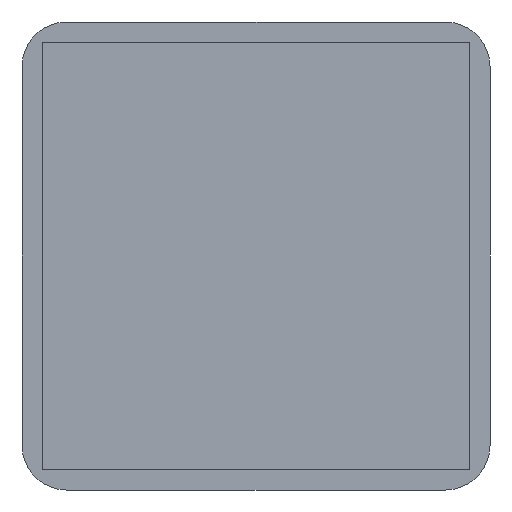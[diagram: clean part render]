
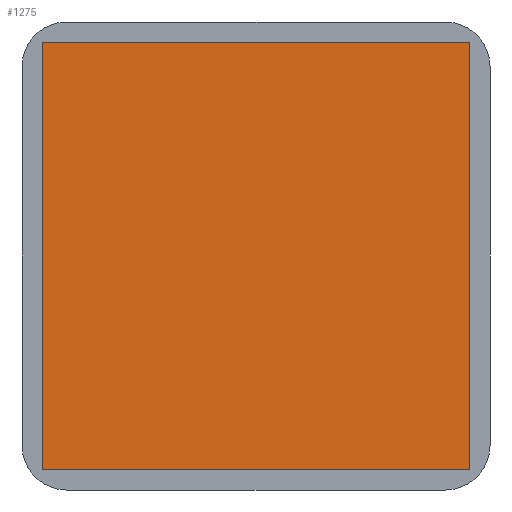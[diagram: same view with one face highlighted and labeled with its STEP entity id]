
A CAD part, front view. The second image highlights one B-rep face of the part: STEP entity #1275.
In plain terms, the highlighted planar face has unit normal (0, -1, 0).
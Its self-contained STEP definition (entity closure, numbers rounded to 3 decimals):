
#79 = ORIENTED_EDGE ( 'NONE', *, *, #105, .F. ) ;
#85 = LINE ( 'NONE', #1935, #403 ) ;
#105 = EDGE_CURVE ( 'NONE', #1767, #804, #1449, .T. ) ;
#215 = CARTESIAN_POINT ( 'NONE',  ( 8.5, -0.1, 8.5 ) ) ;
#255 = VERTEX_POINT ( 'NONE', #2357 ) ;
#271 = DIRECTION ( 'NONE',  ( 0., 1., 0. ) ) ;
#400 = FACE_OUTER_BOUND ( 'NONE', #1545, .T. ) ;
#403 = VECTOR ( 'NONE', #2139, 1000. ) ;
#554 = VECTOR ( 'NONE', #2365, 1000. ) ;
#804 = VERTEX_POINT ( 'NONE', #1513 ) ;
#900 = CARTESIAN_POINT ( 'NONE',  ( -8.5, -0.1, -8.5 ) ) ;
#924 = AXIS2_PLACEMENT_3D ( 'NONE', #2123, #271, #1303 ) ;
#1042 = CARTESIAN_POINT ( 'NONE',  ( 8.5, -0.1, -8.5 ) ) ;
#1131 = ORIENTED_EDGE ( 'NONE', *, *, #1845, .F. ) ;
#1151 = EDGE_CURVE ( 'NONE', #804, #1361, #2527, .T. ) ;
#1275 = ADVANCED_FACE ( 'NONE', ( #400 ), #1823, .F. ) ;
#1303 = DIRECTION ( 'NONE',  ( 0., 0., 1. ) ) ;
#1361 = VERTEX_POINT ( 'NONE', #900 ) ;
#1379 = CARTESIAN_POINT ( 'NONE',  ( -8.5, -0.1, -8.5 ) ) ;
#1449 = LINE ( 'NONE', #1042, #1797 ) ;
#1513 = CARTESIAN_POINT ( 'NONE',  ( 8.5, -0.1, -8.5 ) ) ;
#1545 = EDGE_LOOP ( 'NONE', ( #1131, #2119, #79, #2034 ) ) ;
#1767 = VERTEX_POINT ( 'NONE', #215 ) ;
#1797 = VECTOR ( 'NONE', #2494, 1000. ) ;
#1823 = PLANE ( 'NONE',  #924 ) ;
#1845 = EDGE_CURVE ( 'NONE', #1361, #255, #1965, .T. ) ;
#1935 = CARTESIAN_POINT ( 'NONE',  ( -8.5, -0.1, 8.5 ) ) ;
#1965 = LINE ( 'NONE', #2354, #554 ) ;
#2034 = ORIENTED_EDGE ( 'NONE', *, *, #2165, .F. ) ;
#2119 = ORIENTED_EDGE ( 'NONE', *, *, #1151, .F. ) ;
#2123 = CARTESIAN_POINT ( 'NONE',  ( -8.5, -0.1, 8.5 ) ) ;
#2139 = DIRECTION ( 'NONE',  ( 1., 0., 0. ) ) ;
#2165 = EDGE_CURVE ( 'NONE', #255, #1767, #85, .T. ) ;
#2354 = CARTESIAN_POINT ( 'NONE',  ( -8.5, -0.1, -8.5 ) ) ;
#2357 = CARTESIAN_POINT ( 'NONE',  ( -8.5, -0.1, 8.5 ) ) ;
#2365 = DIRECTION ( 'NONE',  ( 0., 0., 1. ) ) ;
#2439 = DIRECTION ( 'NONE',  ( -1., 0., 0. ) ) ;
#2451 = VECTOR ( 'NONE', #2439, 1000. ) ;
#2494 = DIRECTION ( 'NONE',  ( 0., 0., -1. ) ) ;
#2527 = LINE ( 'NONE', #1379, #2451 ) ;
